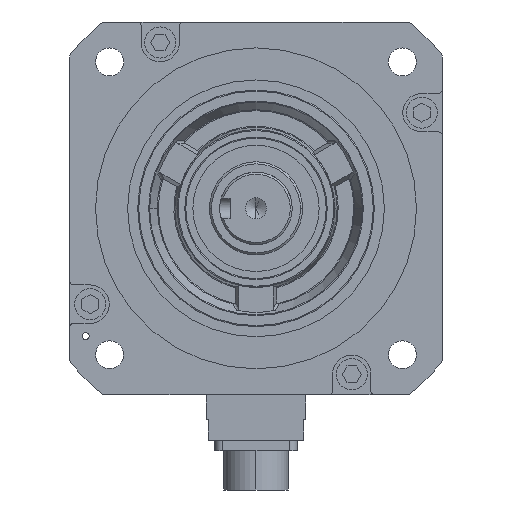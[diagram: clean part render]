
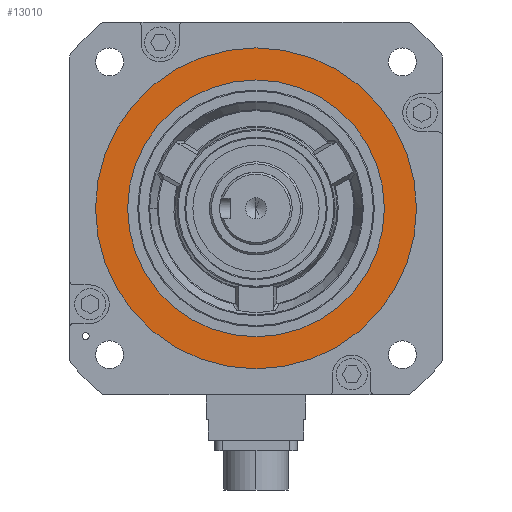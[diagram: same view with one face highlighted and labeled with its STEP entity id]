
A CAD part, left-side view. The second image highlights one B-rep face of the part: STEP entity #13010.
In plain terms, the highlighted planar face has unit normal (-1, 0, 0) as drawn and (0, 0, -1) by its records, which use the part's own axes.
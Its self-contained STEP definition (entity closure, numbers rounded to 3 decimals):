
#65 = DIRECTION ( 'NONE',  ( 0., 0., -1. ) ) ;
#846 = ORIENTED_EDGE ( 'NONE', *, *, #48548, .T. ) ;
#1023 = CARTESIAN_POINT ( 'NONE',  ( -62., 0., 3.8 ) ) ;
#1875 = CIRCLE ( 'NONE', #35358, 62. ) ;
#2009 = EDGE_CURVE ( 'NONE', #60712, #48075, #28218, .T. ) ;
#2532 = DIRECTION ( 'NONE',  ( 1., 0., 0. ) ) ;
#2746 = AXIS2_PLACEMENT_3D ( 'NONE', #16422, #44278, #48985 ) ;
#7026 = CARTESIAN_POINT ( 'NONE',  ( 77.5, 0., 3.8 ) ) ;
#8078 = EDGE_LOOP ( 'NONE', ( #31763, #52371 ) ) ;
#9463 = CARTESIAN_POINT ( 'NONE',  ( -77.5, 0., 3.8 ) ) ;
#10141 = AXIS2_PLACEMENT_3D ( 'NONE', #30941, #59010, #2532 ) ;
#10577 = FACE_BOUND ( 'NONE', #29025, .T. ) ;
#13010 = ADVANCED_FACE ( 'NONE', ( #10577, #49662 ), #28281, .T. ) ;
#13891 = EDGE_CURVE ( 'NONE', #22822, #60445, #30366, .T. ) ;
#16422 = CARTESIAN_POINT ( 'NONE',  ( 0., 0., 3.8 ) ) ;
#21072 = EDGE_CURVE ( 'NONE', #60445, #22822, #50306, .T. ) ;
#22822 = VERTEX_POINT ( 'NONE', #7026 ) ;
#23737 = CARTESIAN_POINT ( 'NONE',  ( 0., 62., 3.8 ) ) ;
#25078 = CARTESIAN_POINT ( 'NONE',  ( 62., 0., 3.8 ) ) ;
#27927 = CARTESIAN_POINT ( 'NONE',  ( 0., 0., 3.8 ) ) ;
#28218 = CIRCLE ( 'NONE', #34165, 62. ) ;
#28281 = PLANE ( 'NONE',  #42562 ) ;
#29025 = EDGE_LOOP ( 'NONE', ( #846, #43789 ) ) ;
#30366 = CIRCLE ( 'NONE', #2746, 77.5 ) ;
#30941 = CARTESIAN_POINT ( 'NONE',  ( 0., 0., 3.8 ) ) ;
#31763 = ORIENTED_EDGE ( 'NONE', *, *, #13891, .F. ) ;
#32670 = DIRECTION ( 'NONE',  ( 1., 0., 0. ) ) ;
#34165 = AXIS2_PLACEMENT_3D ( 'NONE', #48852, #34844, #35242 ) ;
#34844 = DIRECTION ( 'NONE',  ( 0., 0., 1. ) ) ;
#35242 = DIRECTION ( 'NONE',  ( 1., 0., 0. ) ) ;
#35358 = AXIS2_PLACEMENT_3D ( 'NONE', #27927, #60954, #32670 ) ;
#42562 = AXIS2_PLACEMENT_3D ( 'NONE', #23737, #65, #51381 ) ;
#43789 = ORIENTED_EDGE ( 'NONE', *, *, #2009, .T. ) ;
#44278 = DIRECTION ( 'NONE',  ( 0., 0., 1. ) ) ;
#48075 = VERTEX_POINT ( 'NONE', #25078 ) ;
#48548 = EDGE_CURVE ( 'NONE', #48075, #60712, #1875, .T. ) ;
#48852 = CARTESIAN_POINT ( 'NONE',  ( 0., 0., 3.8 ) ) ;
#48985 = DIRECTION ( 'NONE',  ( 1., 0., 0. ) ) ;
#49662 = FACE_OUTER_BOUND ( 'NONE', #8078, .T. ) ;
#50306 = CIRCLE ( 'NONE', #10141, 77.5 ) ;
#51381 = DIRECTION ( 'NONE',  ( -1., 0., 0. ) ) ;
#52371 = ORIENTED_EDGE ( 'NONE', *, *, #21072, .F. ) ;
#59010 = DIRECTION ( 'NONE',  ( 0., 0., 1. ) ) ;
#60445 = VERTEX_POINT ( 'NONE', #9463 ) ;
#60712 = VERTEX_POINT ( 'NONE', #1023 ) ;
#60954 = DIRECTION ( 'NONE',  ( 0., 0., 1. ) ) ;
